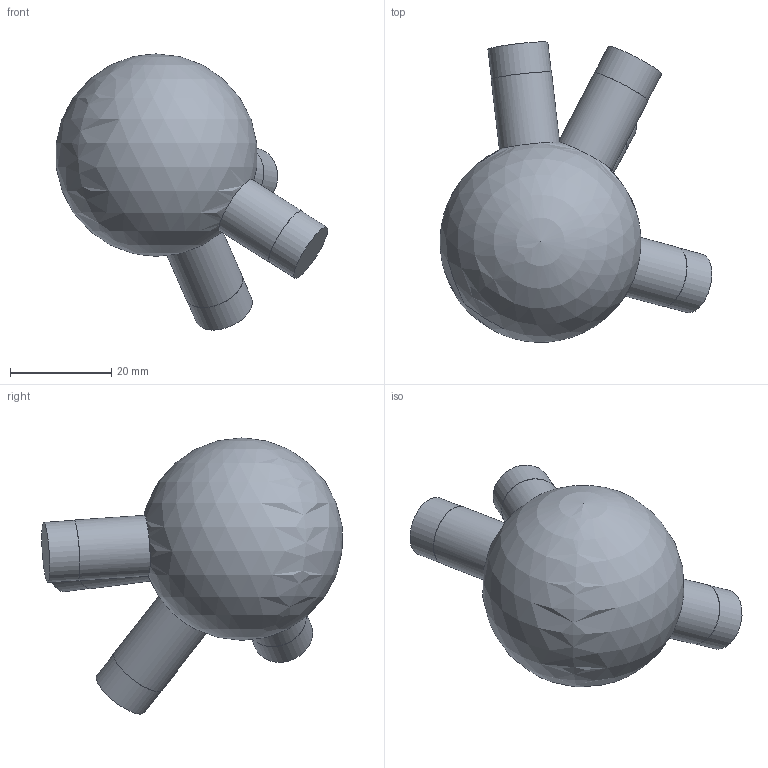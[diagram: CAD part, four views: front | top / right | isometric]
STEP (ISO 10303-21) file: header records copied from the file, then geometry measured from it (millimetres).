
FILE_DESCRIPTION(('Open CASCADE Model'),'2;1');
FILE_NAME('Open CASCADE Shape Model','2026-10-21T12:47:57',('Author'),( 'Open CASCADE'),'Open CASCADE STEP processor 7.9','Open CASCADE 7.9' ,'Unknown');
FILE_SCHEMA(('AUTOMOTIVE_DESIGN { 1 0 10303 214 1 1 1 1 }'));
Length unit declared in the file: millimetre
Products named in the file (1): Open CASCADE STEP translator 7.9 33
Bounding box: 53.71 x 59.37 x 54.58 mm (x, y, z)
Volume: 42479.8 mm3; surface area: 8081.8 mm2
Topology: 1 solids, 1 shells, 17 faces, 33 edges, 23 vertices
Faces by surface type: cylinder 8, plane 8, sphere 1
Full cylindrical faces by diameter (mm): 11.9 x4, 12 x4
Entity records: 1199 total; most frequent: CARTESIAN_POINT 486, DIRECTION 143, ORIENTED_EDGE 64, PCURVE 64, DEFINITIONAL_REPRESENTATION 64, LINE 47, VECTOR 47, AXIS2_PLACEMENT_3D 42
